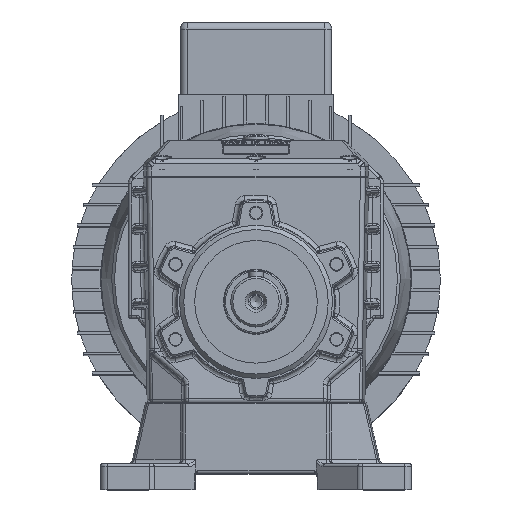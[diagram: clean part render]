
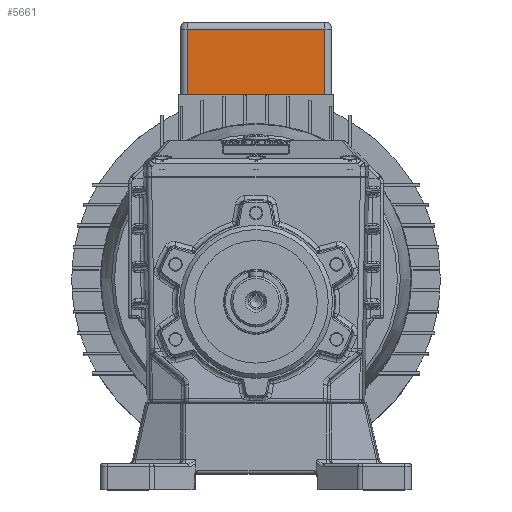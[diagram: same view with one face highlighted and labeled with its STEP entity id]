
A CAD part, top view. The second image highlights one B-rep face of the part: STEP entity #5661.
In plain terms, the highlighted planar face has unit normal (0, 0, 1).
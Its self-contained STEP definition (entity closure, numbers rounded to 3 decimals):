
#5661 = ADVANCED_FACE( '', ( #11679 ), #11680, .T. );
#11679 = FACE_OUTER_BOUND( '', #26293, .T. );
#11680 = PLANE( '', #26294 );
#26293 = EDGE_LOOP( '', ( #42498, #42499, #42500, #42501 ) );
#26294 = AXIS2_PLACEMENT_3D( '', #42502, #42503, #42504 );
#42498 = ORIENTED_EDGE( '', *, *, #47960, .T. );
#42499 = ORIENTED_EDGE( '', *, *, #43597, .T. );
#42500 = ORIENTED_EDGE( '', *, *, #43451, .T. );
#42501 = ORIENTED_EDGE( '', *, *, #49069, .T. );
#42502 = CARTESIAN_POINT( '', ( 52.5, 194.35, -308.9 ) );
#42503 = DIRECTION( '', ( 0., 0., 1. ) );
#42504 = DIRECTION( '', ( 1., 0., 0. ) );
#43451 = EDGE_CURVE( '', #50190, #50188, #50191, .T. );
#43597 = EDGE_CURVE( '', #50446, #50190, #50447, .T. );
#47960 = EDGE_CURVE( '', #57111, #50446, #57114, .T. );
#49069 = EDGE_CURVE( '', #50188, #57111, #58389, .F. );
#50188 = VERTEX_POINT( '', #60156 );
#50190 = VERTEX_POINT( '', #60158 );
#50191 = LINE( '', #60159, #60160 );
#50446 = VERTEX_POINT( '', #60688 );
#50447 = LINE( '', #60689, #60690 );
#57111 = VERTEX_POINT( '', #74854 );
#57114 = LINE( '', #74858, #74859 );
#58389 = LINE( '', #77372, #77373 );
#60156 = CARTESIAN_POINT( '', ( 47.5, 143.85, -308.9 ) );
#60158 = CARTESIAN_POINT( '', ( -47.5, 143.85, -308.9 ) );
#60159 = CARTESIAN_POINT( '', ( -53.5, 143.85, -308.9 ) );
#60160 = VECTOR( '', #78521, 1000. );
#60688 = CARTESIAN_POINT( '', ( -47.5, 189.35, -308.9 ) );
#60689 = CARTESIAN_POINT( '', ( -47.5, 194.35, -308.9 ) );
#60690 = VECTOR( '', #78666, 1000. );
#74854 = CARTESIAN_POINT( '', ( 47.5, 189.35, -308.9 ) );
#74858 = CARTESIAN_POINT( '', ( 52.5, 189.35, -308.9 ) );
#74859 = VECTOR( '', #83226, 1000. );
#77372 = CARTESIAN_POINT( '', ( 47.5, 194.35, -308.9 ) );
#77373 = VECTOR( '', #84126, 1000. );
#78521 = DIRECTION( '', ( 1., 0., 0. ) );
#78666 = DIRECTION( '', ( 0., -1., 0. ) );
#83226 = DIRECTION( '', ( -1., 0., 0. ) );
#84126 = DIRECTION( '', ( 0., -1., 0. ) );
